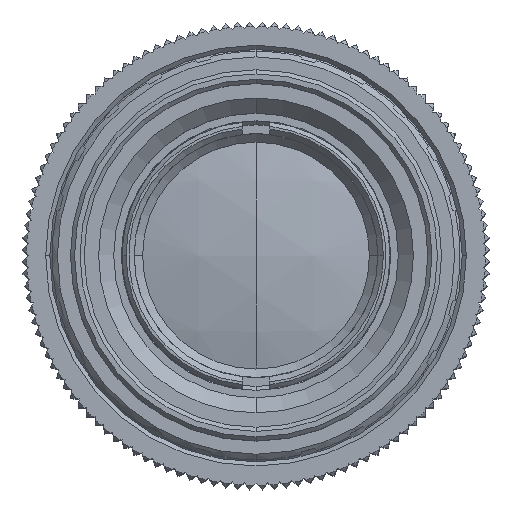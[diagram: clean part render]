
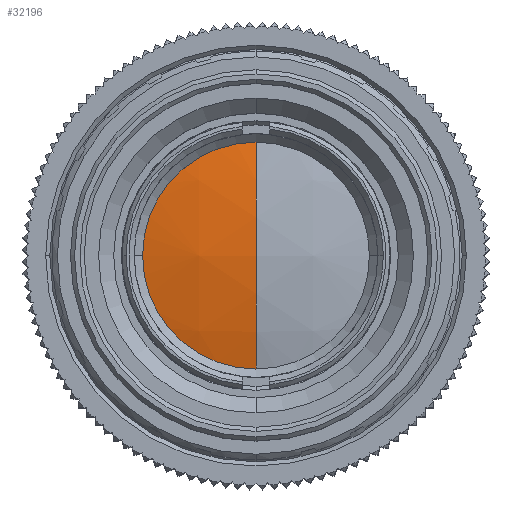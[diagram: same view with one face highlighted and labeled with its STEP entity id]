
A CAD part, top view. The second image highlights one B-rep face of the part: STEP entity #32196.
In plain terms, the highlighted spherical face has radius 33.49 mm.
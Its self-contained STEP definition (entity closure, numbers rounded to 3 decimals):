
#738 = AXIS2_PLACEMENT_3D ( 'NONE', #4401, #1776, #31804 ) ;
#790 = DIRECTION ( 'NONE',  ( 0., 1., 0. ) ) ;
#856 = CIRCLE ( 'NONE', #29623, 8.25 ) ;
#1776 = DIRECTION ( 'NONE',  ( 1., 0., 0. ) ) ;
#2648 = CARTESIAN_POINT ( 'NONE',  ( 0., 0., -6.568 ) ) ;
#3498 = CARTESIAN_POINT ( 'NONE',  ( 0., 0., -39.026 ) ) ;
#3521 = CARTESIAN_POINT ( 'NONE',  ( 0., -8.25, -6.568 ) ) ;
#3883 = VERTEX_POINT ( 'NONE', #5940 ) ;
#4386 = ORIENTED_EDGE ( 'NONE', *, *, #30881, .T. ) ;
#4401 = CARTESIAN_POINT ( 'NONE',  ( 0., 0., -39.026 ) ) ;
#4736 = DIRECTION ( 'NONE',  ( 0., 0., 1. ) ) ;
#5571 = AXIS2_PLACEMENT_3D ( 'NONE', #3498, #13463, #8524 ) ;
#5765 = CARTESIAN_POINT ( 'NONE',  ( 0., 8.25, -6.568 ) ) ;
#5940 = CARTESIAN_POINT ( 'NONE',  ( -8.25, 0., -6.568 ) ) ;
#6474 = CIRCLE ( 'NONE', #738, 33.49 ) ;
#7428 = CARTESIAN_POINT ( 'NONE',  ( 0., 0., -5.536 ) ) ;
#8524 = DIRECTION ( 'NONE',  ( 0., -1., 0. ) ) ;
#8861 = ORIENTED_EDGE ( 'NONE', *, *, #24408, .F. ) ;
#9626 = CARTESIAN_POINT ( 'NONE',  ( 0., 0., -6.568 ) ) ;
#11149 = VERTEX_POINT ( 'NONE', #3521 ) ;
#12560 = FACE_OUTER_BOUND ( 'NONE', #14511, .T. ) ;
#13463 = DIRECTION ( 'NONE',  ( -1., 0., 0. ) ) ;
#14146 = EDGE_CURVE ( 'NONE', #3883, #11149, #19534, .T. ) ;
#14511 = EDGE_LOOP ( 'NONE', ( #16425, #4386, #8861, #15997 ) ) ;
#15997 = ORIENTED_EDGE ( 'NONE', *, *, #28769, .T. ) ;
#16425 = ORIENTED_EDGE ( 'NONE', *, *, #14146, .T. ) ;
#17640 = DIRECTION ( 'NONE',  ( 1., 0., 0. ) ) ;
#18112 = CARTESIAN_POINT ( 'NONE',  ( 0., 0., -39.026 ) ) ;
#19534 = CIRCLE ( 'NONE', #23728, 8.25 ) ;
#20705 = CIRCLE ( 'NONE', #5571, 33.49 ) ;
#21478 = VERTEX_POINT ( 'NONE', #7428 ) ;
#22495 = AXIS2_PLACEMENT_3D ( 'NONE', #18112, #25672, #790 ) ;
#22535 = SPHERICAL_SURFACE ( 'NONE', #22495, 33.49 ) ;
#23382 = DIRECTION ( 'NONE',  ( 0., 0., 1. ) ) ;
#23728 = AXIS2_PLACEMENT_3D ( 'NONE', #2648, #23382, #27389 ) ;
#24408 = EDGE_CURVE ( 'NONE', #31446, #21478, #6474, .T. ) ;
#25672 = DIRECTION ( 'NONE',  ( -1., 0., 0. ) ) ;
#27389 = DIRECTION ( 'NONE',  ( 1., 0., 0. ) ) ;
#28769 = EDGE_CURVE ( 'NONE', #31446, #3883, #856, .T. ) ;
#29623 = AXIS2_PLACEMENT_3D ( 'NONE', #9626, #4736, #17640 ) ;
#30881 = EDGE_CURVE ( 'NONE', #11149, #21478, #20705, .T. ) ;
#31446 = VERTEX_POINT ( 'NONE', #5765 ) ;
#31804 = DIRECTION ( 'NONE',  ( 0., 0., -1. ) ) ;
#32196 = ADVANCED_FACE ( 'NONE', ( #12560 ), #22535, .T. ) ;
